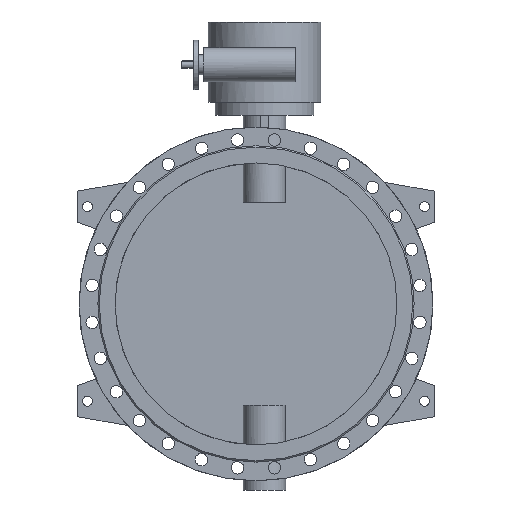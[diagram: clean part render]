
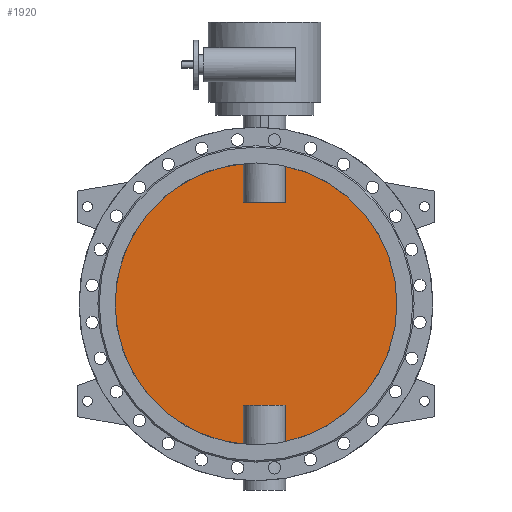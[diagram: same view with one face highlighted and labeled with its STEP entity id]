
A CAD part, front view. The second image highlights one B-rep face of the part: STEP entity #1920.
In plain terms, the highlighted planar face has unit normal (0, -1, 0).
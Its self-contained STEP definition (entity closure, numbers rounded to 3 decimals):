
#1920=ADVANCED_FACE('',(#4020),#4022,.F.);
#4020=FACE_BOUND('',#4021,.T.);
#4021=EDGE_LOOP('',(#5010,#5011,#5012,#5013,#5014,#5015,#5016,#5017));
#4022=PLANE('',#4023);
#4023=AXIS2_PLACEMENT_3D('',#4024,#4025,#4026);
#4024=CARTESIAN_POINT('',(0.,-5.,0.));
#4025=DIRECTION('',(0.,1.,0.));
#4026=DIRECTION('',(1.,0.,0.));
#5010=ORIENTED_EDGE('',*,*,#5505,.T.);
#5011=ORIENTED_EDGE('',*,*,#5511,.T.);
#5012=ORIENTED_EDGE('',*,*,#5512,.T.);
#5013=ORIENTED_EDGE('',*,*,#5513,.T.);
#5014=ORIENTED_EDGE('',*,*,#5507,.T.);
#5015=ORIENTED_EDGE('',*,*,#5514,.T.);
#5016=ORIENTED_EDGE('',*,*,#5515,.T.);
#5017=ORIENTED_EDGE('',*,*,#5516,.T.);
#5505=EDGE_CURVE('',#6329,#6330,#6331,.F.);
#5507=EDGE_CURVE('',#6334,#6332,#6335,.F.);
#5511=EDGE_CURVE('',#6330,#6341,#6342,.T.);
#5512=EDGE_CURVE('',#6341,#6343,#6344,.F.);
#5513=EDGE_CURVE('',#6343,#6334,#6345,.F.);
#5514=EDGE_CURVE('',#6332,#6346,#6347,.F.);
#5515=EDGE_CURVE('',#6346,#6348,#6349,.F.);
#5516=EDGE_CURVE('',#6348,#6329,#6350,.T.);
#6329=VERTEX_POINT('',#9169);
#6330=VERTEX_POINT('',#9170);
#6331=CIRCLE('',#9171,500.);
#6332=VERTEX_POINT('',#9175);
#6334=VERTEX_POINT('',#9273);
#6335=CIRCLE('',#9274,500.);
#6341=VERTEX_POINT('',#9384);
#6342=LINE('',#9385,#9386);
#6343=VERTEX_POINT('',#9388);
#6344=LINE('',#9389,#9390);
#6345=LINE('',#9392,#9393);
#6346=VERTEX_POINT('',#9395);
#6347=LINE('',#9396,#9397);
#6348=VERTEX_POINT('',#9399);
#6349=LINE('',#9400,#9401);
#6350=LINE('',#9403,#9404);
#9169=CARTESIAN_POINT('',(104.833,-5.,-488.887));
#9170=CARTESIAN_POINT('',(104.833,-5.,488.887));
#9171=AXIS2_PLACEMENT_3D('',#9172,#9173,#9174);
#9172=CARTESIAN_POINT('',(0.,-5.,0.));
#9173=DIRECTION('',(0.,1.,0.));
#9174=DIRECTION('',(0.21,0.,0.978));
#9175=CARTESIAN_POINT('',(-44.833,-5.,-497.986));
#9273=CARTESIAN_POINT('',(-44.833,-5.,497.986));
#9274=AXIS2_PLACEMENT_3D('',#9275,#9276,#9277);
#9275=CARTESIAN_POINT('',(0.,-5.,0.));
#9276=DIRECTION('',(0.,1.,0.));
#9277=DIRECTION('',(-0.09,0.,-0.996));
#9384=CARTESIAN_POINT('',(104.833,-5.,360.));
#9385=CARTESIAN_POINT('',(104.833,-5.,488.887));
#9386=VECTOR('',#9387,1.);
#9387=DIRECTION('',(0.,0.,-1.));
#9388=CARTESIAN_POINT('',(-44.833,-5.,360.));
#9389=CARTESIAN_POINT('',(-44.833,-5.,360.));
#9390=VECTOR('',#9391,1.);
#9391=DIRECTION('',(1.,0.,0.));
#9392=CARTESIAN_POINT('',(-44.833,-5.,497.986));
#9393=VECTOR('',#9394,1.);
#9394=DIRECTION('',(0.,0.,-1.));
#9395=CARTESIAN_POINT('',(-44.833,-5.,-360.));
#9396=CARTESIAN_POINT('',(-44.833,-5.,-360.));
#9397=VECTOR('',#9398,1.);
#9398=DIRECTION('',(0.,0.,-1.));
#9399=CARTESIAN_POINT('',(104.833,-5.,-360.));
#9400=CARTESIAN_POINT('',(104.833,-5.,-360.));
#9401=VECTOR('',#9402,1.);
#9402=DIRECTION('',(-1.,0.,0.));
#9403=CARTESIAN_POINT('',(104.833,-5.,-360.));
#9404=VECTOR('',#9405,1.);
#9405=DIRECTION('',(0.,0.,-1.));
